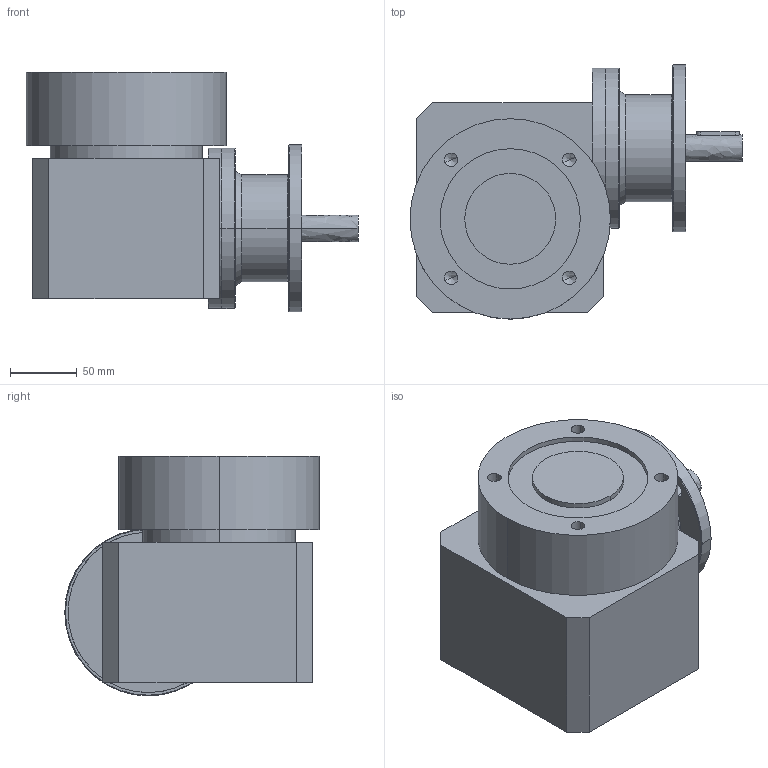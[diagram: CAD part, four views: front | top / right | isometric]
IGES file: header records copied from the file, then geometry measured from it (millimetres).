
Start section: Elysium IGES Interface
Global section: file name: H:\cad\2SP78\2SP781_2SP782_F10-F12.igs; native system: Creo Elements/Direct Modeling 20.0C  26-Jan-2018; preprocessor: Creo Element/Direct IGES_3D V2.2; author: Unknown; organization: Unknown; date: 20190719.164352; units: millimetre
Bounding box: 248.5 x 190.5 x 179.5 mm (x, y, z)
Volume: 4084570.7 mm3; surface area: 248368.3 mm2
Topology: 3 solids, 3 shells, 101 faces, 226 edges, 136 vertices
Faces by surface type: bspline 101
